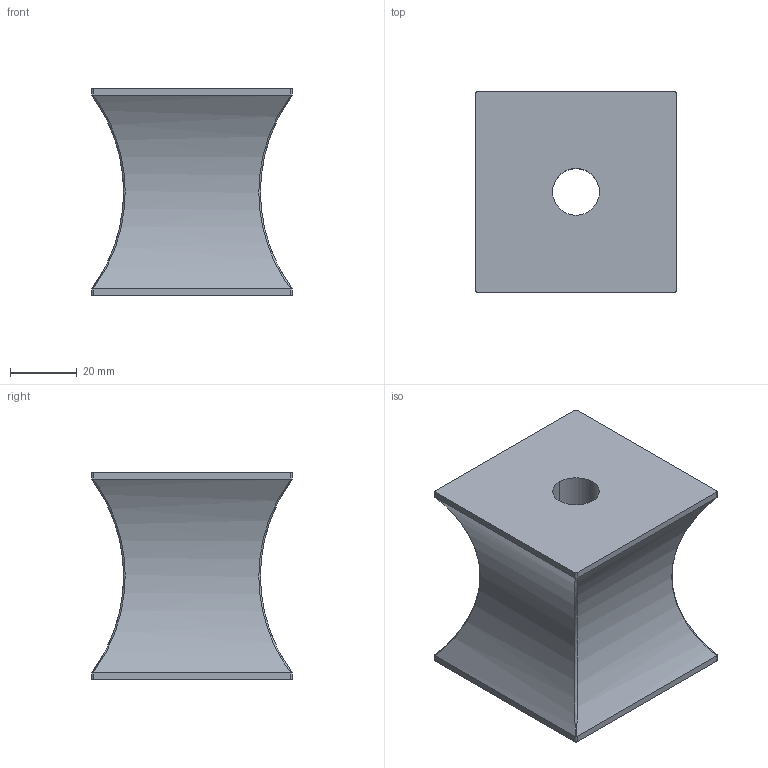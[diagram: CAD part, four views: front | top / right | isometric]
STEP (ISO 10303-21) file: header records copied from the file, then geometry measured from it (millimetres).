
FILE_DESCRIPTION(/* description */ (''),/* implementation_level */ '2;1');
FILE_NAME(/* name */ '3d_qx60-62_06517_r00.stp',/* time_stamp */ '2011-01-10T14:11:39+09:00',/* author */ ('MISUMI'),/* organization */ (''),/* preprocessor_version */ 'ST-DEVELOPER v11',/* originating_system */ 'UGS - NX 5.0',/* authorisation */ '');
FILE_SCHEMA (('CONFIG_CONTROL_DESIGN'));
Length unit declared in the file: millimetre
Products named in the file (1): 3d_qx60-62_06517_r00
Bounding box: 60 x 60 x 62 mm (x, y, z)
Volume: 135122.2 mm3; surface area: 22304.6 mm2
Topology: 1 solids, 1 shells, 28 faces, 78 edges, 52 vertices
Faces by surface type: cylinder 14, plane 10, bspline 4
Entity records: 4928 total; most frequent: CARTESIAN_POINT 4179, ORIENTED_EDGE 156, DIRECTION 108, EDGE_CURVE 78, VERTEX_POINT 52, AXIS2_PLACEMENT_3D 37, LINE 34, VECTOR 34
